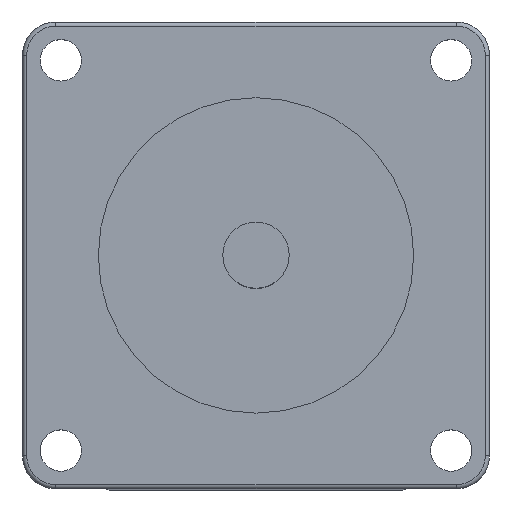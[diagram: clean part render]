
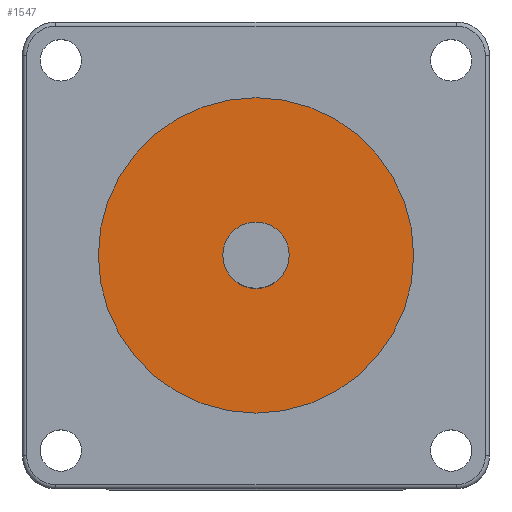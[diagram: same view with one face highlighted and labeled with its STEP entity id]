
A CAD part, top view. The second image highlights one B-rep face of the part: STEP entity #1547.
In plain terms, the highlighted planar face has unit normal (0, 0, 1).
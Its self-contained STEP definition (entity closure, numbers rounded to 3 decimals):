
#145 = EDGE_LOOP ( 'NONE', ( #346, #1562 ) ) ;
#181 = CARTESIAN_POINT ( 'NONE',  ( 0., 0., 80.6 ) ) ;
#346 = ORIENTED_EDGE ( 'NONE', *, *, #1415, .T. ) ;
#449 = DIRECTION ( 'NONE',  ( 1., 0., 0. ) ) ;
#473 = CIRCLE ( 'NONE', #1941, 4. ) ;
#485 = DIRECTION ( 'NONE',  ( 1., 0., 0. ) ) ;
#640 = PLANE ( 'NONE',  #2476 ) ;
#678 = AXIS2_PLACEMENT_3D ( 'NONE', #181, #990, #1788 ) ;
#703 = CARTESIAN_POINT ( 'NONE',  ( 0., 0., 80.6 ) ) ;
#705 = VERTEX_POINT ( 'NONE', #2171 ) ;
#836 = CARTESIAN_POINT ( 'NONE',  ( 19.05, 0., 80.6 ) ) ;
#920 = AXIS2_PLACEMENT_3D ( 'NONE', #703, #1510, #2311 ) ;
#978 = CARTESIAN_POINT ( 'NONE',  ( 0., 0., 80.6 ) ) ;
#990 = DIRECTION ( 'NONE',  ( 0., 0., 1. ) ) ;
#1118 = CARTESIAN_POINT ( 'NONE',  ( -19.05, 0., 80.6 ) ) ;
#1311 = EDGE_CURVE ( 'NONE', #1544, #1325, #2401, .T. ) ;
#1325 = VERTEX_POINT ( 'NONE', #1118 ) ;
#1415 = EDGE_CURVE ( 'NONE', #1325, #1544, #2438, .T. ) ;
#1449 = CARTESIAN_POINT ( 'NONE',  ( 0., 0., 80.6 ) ) ;
#1485 = CARTESIAN_POINT ( 'NONE',  ( 0., 0., 80.6 ) ) ;
#1493 = VERTEX_POINT ( 'NONE', #2027 ) ;
#1510 = DIRECTION ( 'NONE',  ( 0., 0., 1. ) ) ;
#1544 = VERTEX_POINT ( 'NONE', #836 ) ;
#1547 = ADVANCED_FACE ( 'NONE', ( #1641, #2448 ), #640, .T. ) ;
#1562 = ORIENTED_EDGE ( 'NONE', *, *, #1311, .T. ) ;
#1641 = FACE_BOUND ( 'NONE', #2243, .T. ) ;
#1779 = DIRECTION ( 'NONE',  ( 0., 0., 1. ) ) ;
#1788 = DIRECTION ( 'NONE',  ( 1., 0., 0. ) ) ;
#1818 = CIRCLE ( 'NONE', #678, 4. ) ;
#1941 = AXIS2_PLACEMENT_3D ( 'NONE', #1485, #2287, #485 ) ;
#2027 = CARTESIAN_POINT ( 'NONE',  ( -4., 0., 80.6 ) ) ;
#2059 = EDGE_CURVE ( 'NONE', #1493, #705, #473, .T. ) ;
#2096 = AXIS2_PLACEMENT_3D ( 'NONE', #978, #1779, #2586 ) ;
#2171 = CARTESIAN_POINT ( 'NONE',  ( 4., 0., 80.6 ) ) ;
#2214 = ORIENTED_EDGE ( 'NONE', *, *, #2059, .F. ) ;
#2243 = EDGE_LOOP ( 'NONE', ( #2214, #2333 ) ) ;
#2251 = DIRECTION ( 'NONE',  ( 0., 0., 1. ) ) ;
#2287 = DIRECTION ( 'NONE',  ( 0., 0., 1. ) ) ;
#2311 = DIRECTION ( 'NONE',  ( 1., 0., 0. ) ) ;
#2333 = ORIENTED_EDGE ( 'NONE', *, *, #2393, .F. ) ;
#2393 = EDGE_CURVE ( 'NONE', #705, #1493, #1818, .T. ) ;
#2401 = CIRCLE ( 'NONE', #920, 19.05 ) ;
#2438 = CIRCLE ( 'NONE', #2096, 19.05 ) ;
#2448 = FACE_OUTER_BOUND ( 'NONE', #145, .T. ) ;
#2476 = AXIS2_PLACEMENT_3D ( 'NONE', #1449, #2251, #449 ) ;
#2586 = DIRECTION ( 'NONE',  ( 1., 0., 0. ) ) ;
